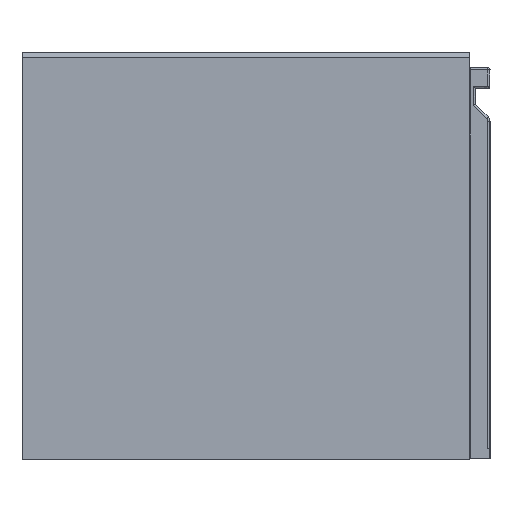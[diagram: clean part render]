
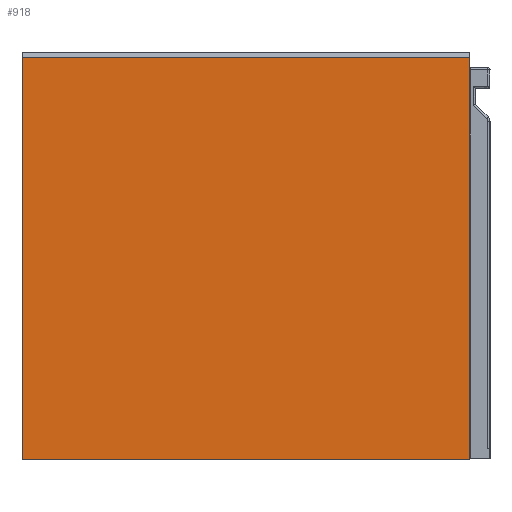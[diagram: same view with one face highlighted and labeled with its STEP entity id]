
A CAD part, left-side view. The second image highlights one B-rep face of the part: STEP entity #918.
In plain terms, the highlighted planar face has unit normal (-1, 0, 0).
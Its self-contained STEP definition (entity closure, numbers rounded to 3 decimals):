
#918=ADVANCED_FACE('',(#1455),#9361,.T.);
#1455=FACE_OUTER_BOUND('',#2058,.T.);
#2058=EDGE_LOOP('',(#4936,#4937,#4938,#4939));
#4936=ORIENTED_EDGE('',*,*,#6399,.F.);
#4937=ORIENTED_EDGE('',*,*,#6400,.T.);
#4938=ORIENTED_EDGE('',*,*,#6401,.T.);
#4939=ORIENTED_EDGE('',*,*,#6402,.T.);
#6399=EDGE_CURVE('',#8827,#8824,#7848,.T.);
#6400=EDGE_CURVE('',#8827,#8828,#7849,.T.);
#6401=EDGE_CURVE('',#8828,#8829,#7850,.T.);
#6402=EDGE_CURVE('',#8829,#8824,#7851,.T.);
#7848=B_SPLINE_CURVE_WITH_KNOTS('',1,(#19676,#19677),.UNSPECIFIED.,.F.,
 .F.,(2,2),(0.,430.),.UNSPECIFIED.);
#7849=B_SPLINE_CURVE_WITH_KNOTS('',1,(#19678,#19679),.UNSPECIFIED.,.F.,
 .F.,(2,2),(-387.,0.),.UNSPECIFIED.);
#7850=B_SPLINE_CURVE_WITH_KNOTS('',1,(#19680,#19681),.UNSPECIFIED.,.F.,
 .F.,(2,2),(-430.,0.),.UNSPECIFIED.);
#7851=B_SPLINE_CURVE_WITH_KNOTS('',1,(#19682,#19683),.UNSPECIFIED.,.F.,
 .F.,(2,2),(0.,387.),.UNSPECIFIED.);
#8824=VERTEX_POINT('',#19660);
#8827=VERTEX_POINT('',#19663);
#8828=VERTEX_POINT('',#19664);
#8829=VERTEX_POINT('',#19665);
#9361=PLANE('',#10157);
#10157=AXIS2_PLACEMENT_3D('',#19654,#10629,$);
#10629=DIRECTION('',(-1.,0.,0.));
#19654=CARTESIAN_POINT('',(-7815.326,-10876.937,-1904.111));
#19660=CARTESIAN_POINT('',(-7815.326,-10833.817,-1478.291));
#19663=CARTESIAN_POINT('',(-7815.326,-10403.817,-1478.291));
#19664=CARTESIAN_POINT('',(-7815.326,-10403.817,-1865.291));
#19665=CARTESIAN_POINT('',(-7815.326,-10833.817,-1865.291));
#19676=CARTESIAN_POINT('',(-7815.326,-10403.817,-1478.291));
#19677=CARTESIAN_POINT('',(-7815.326,-10833.817,-1478.291));
#19678=CARTESIAN_POINT('',(-7815.326,-10403.817,-1478.291));
#19679=CARTESIAN_POINT('',(-7815.326,-10403.817,-1865.291));
#19680=CARTESIAN_POINT('',(-7815.326,-10403.817,-1865.291));
#19681=CARTESIAN_POINT('',(-7815.326,-10833.817,-1865.291));
#19682=CARTESIAN_POINT('',(-7815.326,-10833.817,-1865.291));
#19683=CARTESIAN_POINT('',(-7815.326,-10833.817,-1478.291));
